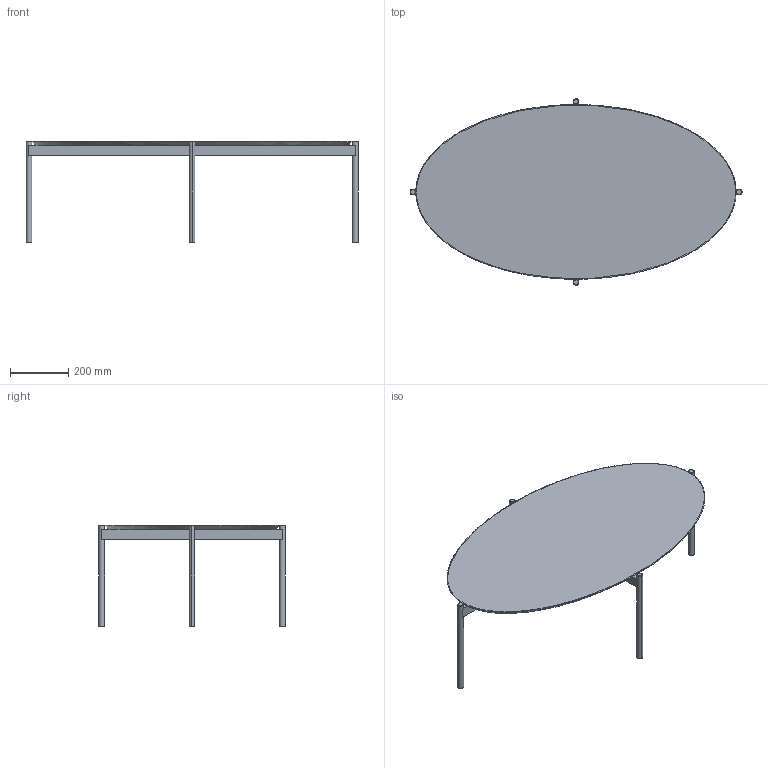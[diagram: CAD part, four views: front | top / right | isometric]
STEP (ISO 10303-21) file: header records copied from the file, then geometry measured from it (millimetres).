
FILE_DESCRIPTION(/* description */ (''),/* implementation_level */ '2;1');
FILE_NAME(/* name */ 'DWZTRF~C',/* time_stamp */ '2022-08-18T08:07:16+02:00',/* author */ (''),/* organization */ (''),/* preprocessor_version */ 'ST-DEVELOPER v16.5',/* originating_system */ '',/* authorisation */ '');
FILE_SCHEMA (('AUTOMOTIVE_DESIGN'));
Length unit declared in the file: millimetre
Products named in the file (1): Document
Bounding box: 1140 x 640 x 350 mm (x, y, z)
Volume: 9684343.2 mm3; surface area: 1339349.3 mm2
Topology: 7 solids, 7 shells, 52 faces, 96 edges, 58 vertices
Faces by surface type: bspline 30, plane 22
Entity records: 2642 total; most frequent: CARTESIAN_POINT 1931, ORIENTED_EDGE 190, EDGE_CURVE 95, VERTEX_POINT 57, ADVANCED_FACE 52, FACE_OUTER_BOUND 52, EDGE_LOOP 52, B_SPLINE_CURVE_WITH_KNOTS 46
